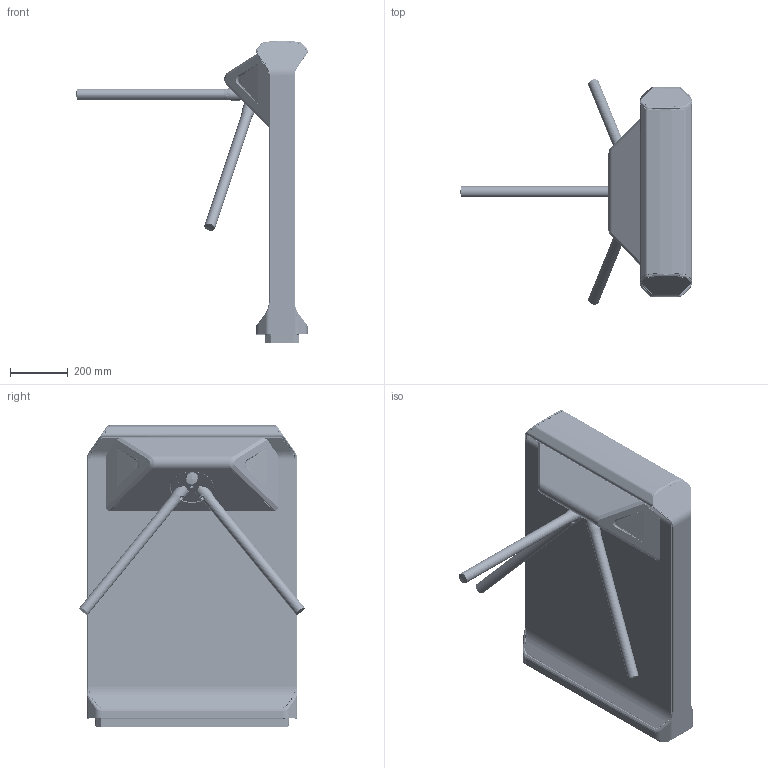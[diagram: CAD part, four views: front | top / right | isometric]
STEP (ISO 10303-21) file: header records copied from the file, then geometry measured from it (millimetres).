
FILE_DESCRIPTION(/* description */ ('Unknown'),/* implementation_level */ '2;1');
FILE_NAME(/* name */ '55870004_02',/* time_stamp */ '2023-12-04T07:23:04+01:00',/* author */ ('Unknown'),/* organization */ ('Unknown'),/* preprocessor_version */ 'ST-DEVELOPER v18.104',/* originating_system */ 'Solid Edge',/* authorisation */ 'Unknown');
FILE_SCHEMA (('AUTOMOTIVE_DESIGN {1 0 10303 214 3 1 1}'));
Products named in the file (68): 55870004; FMTP_MS_oa_0; 10450275_oa_1; 10430545_oa_2; 20590321; 34630039; 33020022; 30210006; 31550003; 31470013_mTripod_Wand; 34635031; 33020020; 34630038; 20780280; 20180434; 10430534_oa_3; 20590269; 31470005_mTripod_a; 20160202; 31470016_mTripod_C; 10430533_oa_4; 20590268; 34620004; 34630026; 31470016_10430533_mir; 31470016_10430533; 10430546_oa_5; 34630016; 31470013_mTripod_Wand_vorne_kurz; 20400391; 20590323; 31470013_mTripod_Wand_kurz; 20590322; 20180437; 31470012; 20780281; 10560258_oa_6; 10310497; 20160285; 32325009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
Assembly tree (160 placements, depth 5):
  55870004
    FMTP_MS_oa_0
      10450275_oa_1
        10430545_oa_2
          20590321
          34630039  x2
          33020022  x2
          30210006  x8
          31550003  x4
          31470013_mTripod_Wand
          34635031  x4
          33020020  x2
          34630038  x2
          20780280
          20180434
        10430534_oa_3
          20590269
          31470005_mTripod_a
          20160202
          31470016_mTripod_C
          34630039  x4
          33020022  x4
        10430533_oa_4
          20590268
          34620004  x2
          34630026  x2
          31470016_10430533_mir
          31470016_10430533
        10430546_oa_5
          34630016  x19
          31470013_mTripod_Wand_vorne_kurz
          20400391  x6
          20590323
          31470013_mTripod_Wand_kurz
          20590322
          20180437  x2
          31470012  x6
          20780281
      10560258_oa_6
        10310497
          20160285
          32325009  x6
          20030378  x3
          34090007  x3
          20325079  x3
          20325046  x3
          35000011  x3
          33305003  x3
          37115003
          20160175
          34900014  x3
          30975089  x3
          37115001  x3
      10430576  x2
        20590237
        20690114
      20340290
      35165000  x3
      34845038  x3
      20430647  x2
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Bounding box: 803.81 x 782.17 x 1050 mm (x, y, z)
Volume: 19895203.9 mm3; surface area: 6166380.9 mm2
Topology: 179 solids, 186 shells, 13896 faces, 32876 edges, 19012 vertices
Faces by surface type: cylinder 4017, plane 3943, bspline 3293, sphere 1059, cone 795, torus 789
Full cylindrical faces by diameter (mm): 1.5 x3, 2 x6, 2.5 x3, 2.65 x2, 3 x3, 3.2 x3, 3.3 x3, 3.48 x3, 3.5 x4, 3.8 x6, 4 x6, 4.134 x4, 4.2 x4, 4.5 x9, 4.917 x3, 5 x19, 5.4 x4, 5.5 x6, 6 x43, 6.1 x12, 6.466 x3, 6.6 x4, 6.77 x4, 6.8 x3, 7 x4, 7.07 x4, 7.1 x2, 7.37 x4, 8 x19, 8.1 x4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
Entity records: 358447 total; most frequent: CARTESIAN_POINT 119691, ORIENTED_EDGE 49528, DIRECTION 46996, EDGE_CURVE 24764, AXIS2_PLACEMENT_3D 18950, VERTEX_POINT 14433, FACE_BOUND 12151, EDGE_LOOP 12137
